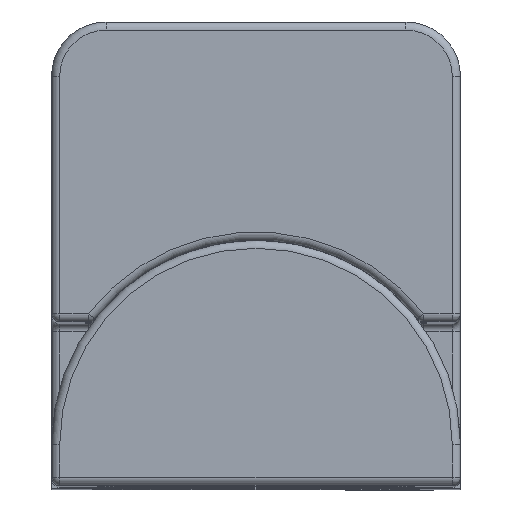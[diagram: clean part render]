
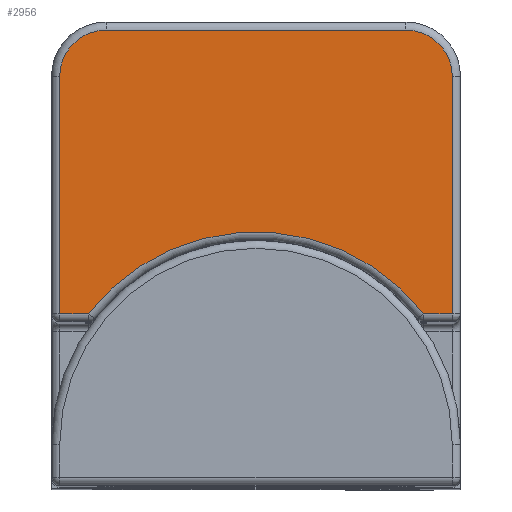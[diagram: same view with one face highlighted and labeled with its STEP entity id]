
A CAD part, top view. The second image highlights one B-rep face of the part: STEP entity #2956.
In plain terms, the highlighted planar face has unit normal (0, 0, 1).
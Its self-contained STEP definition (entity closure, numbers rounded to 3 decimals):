
#290 = AXIS2_PLACEMENT_3D ( 'NONE', #3735, #10707, #4732 ) ;
#423 = VERTEX_POINT ( 'NONE', #1577 ) ;
#443 = EDGE_CURVE ( 'NONE', #9053, #2900, #4996, .T. ) ;
#505 = CARTESIAN_POINT ( 'NONE',  ( 13., 13., 62.5 ) ) ;
#543 = DIRECTION ( 'NONE',  ( 0., 0., 1. ) ) ;
#936 = EDGE_CURVE ( 'NONE', #423, #9053, #8601, .T. ) ;
#1280 = DIRECTION ( 'NONE',  ( 0., -1., 0. ) ) ;
#1345 = CARTESIAN_POINT ( 'NONE',  ( 0.3, 4.3, 62.5 ) ) ;
#1519 = DIRECTION ( 'NONE',  ( -1., 0., 0. ) ) ;
#1577 = CARTESIAN_POINT ( 'NONE',  ( 0.3, 13., 62.5 ) ) ;
#1605 = VERTEX_POINT ( 'NONE', #11792 ) ;
#1820 = CARTESIAN_POINT ( 'NONE',  ( 14.7, 13., 62.5 ) ) ;
#1881 = CIRCLE ( 'NONE', #290, 7.8 ) ;
#2259 = ORIENTED_EDGE ( 'NONE', *, *, #7974, .T. ) ;
#2288 = CARTESIAN_POINT ( 'NONE',  ( 0.3, 0., 62.5 ) ) ;
#2628 = ORIENTED_EDGE ( 'NONE', *, *, #5451, .T. ) ;
#2702 = CARTESIAN_POINT ( 'NONE',  ( 0., 0., 62.5 ) ) ;
#2757 = AXIS2_PLACEMENT_3D ( 'NONE', #505, #7458, #1519 ) ;
#2760 = EDGE_CURVE ( 'NONE', #12017, #423, #7368, .T. ) ;
#2859 = ORIENTED_EDGE ( 'NONE', *, *, #3631, .T. ) ;
#2900 = VERTEX_POINT ( 'NONE', #12622 ) ;
#2956 = ADVANCED_FACE ( 'NONE', ( #11130 ), #4697, .F. ) ;
#3631 = EDGE_CURVE ( 'NONE', #6102, #1605, #5030, .T. ) ;
#3735 = CARTESIAN_POINT ( 'NONE',  ( 7.5, -0.5, 62.5 ) ) ;
#3844 = CARTESIAN_POINT ( 'NONE',  ( 0., 14.7, 62.5 ) ) ;
#4202 = VECTOR ( 'NONE', #5047, 1000. ) ;
#4577 = EDGE_CURVE ( 'NONE', #1605, #12017, #12843, .T. ) ;
#4697 = PLANE ( 'NONE',  #6830 ) ;
#4727 = VERTEX_POINT ( 'NONE', #7091 ) ;
#4732 = DIRECTION ( 'NONE',  ( -1., 0., 0. ) ) ;
#4996 = LINE ( 'NONE', #7566, #9983 ) ;
#5030 = CIRCLE ( 'NONE', #2757, 1.7 ) ;
#5047 = DIRECTION ( 'NONE',  ( 1., 0., 0. ) ) ;
#5451 = EDGE_CURVE ( 'NONE', #4727, #6102, #10607, .T. ) ;
#5691 = DIRECTION ( 'NONE',  ( -1., 0., 0. ) ) ;
#5852 = EDGE_LOOP ( 'NONE', ( #12328, #11927, #10156, #2259, #2628, #2859, #11764, #12271 ) ) ;
#5914 = VECTOR ( 'NONE', #1280, 1000. ) ;
#6102 = VERTEX_POINT ( 'NONE', #1820 ) ;
#6412 = CARTESIAN_POINT ( 'NONE',  ( 13.648, 4.3, 62.5 ) ) ;
#6491 = CARTESIAN_POINT ( 'NONE',  ( 2., 13., 62.5 ) ) ;
#6830 = AXIS2_PLACEMENT_3D ( 'NONE', #2702, #11698, #5691 ) ;
#7091 = CARTESIAN_POINT ( 'NONE',  ( 14.7, 4.3, 62.5 ) ) ;
#7154 = LINE ( 'NONE', #11079, #4202 ) ;
#7368 = CIRCLE ( 'NONE', #12468, 1.7 ) ;
#7458 = DIRECTION ( 'NONE',  ( 0., 0., 1. ) ) ;
#7488 = DIRECTION ( 'NONE',  ( -1., 0., 0. ) ) ;
#7566 = CARTESIAN_POINT ( 'NONE',  ( 1.352, 4.3, 62.5 ) ) ;
#7974 = EDGE_CURVE ( 'NONE', #9160, #4727, #7154, .T. ) ;
#8601 = LINE ( 'NONE', #2288, #5914 ) ;
#9053 = VERTEX_POINT ( 'NONE', #1345 ) ;
#9160 = VERTEX_POINT ( 'NONE', #6412 ) ;
#9531 = DIRECTION ( 'NONE',  ( 0., 1., 0. ) ) ;
#9831 = VECTOR ( 'NONE', #11844, 1000. ) ;
#9983 = VECTOR ( 'NONE', #11556, 1000. ) ;
#10156 = ORIENTED_EDGE ( 'NONE', *, *, #12900, .T. ) ;
#10607 = LINE ( 'NONE', #12567, #10927 ) ;
#10707 = DIRECTION ( 'NONE',  ( 0., 0., -1. ) ) ;
#10927 = VECTOR ( 'NONE', #9531, 1000. ) ;
#11079 = CARTESIAN_POINT ( 'NONE',  ( 15., 4.3, 62.5 ) ) ;
#11130 = FACE_OUTER_BOUND ( 'NONE', #5852, .T. ) ;
#11556 = DIRECTION ( 'NONE',  ( 1., 0., 0. ) ) ;
#11698 = DIRECTION ( 'NONE',  ( 0., 0., -1. ) ) ;
#11764 = ORIENTED_EDGE ( 'NONE', *, *, #4577, .T. ) ;
#11792 = CARTESIAN_POINT ( 'NONE',  ( 13., 14.7, 62.5 ) ) ;
#11844 = DIRECTION ( 'NONE',  ( -1., 0., 0. ) ) ;
#11927 = ORIENTED_EDGE ( 'NONE', *, *, #443, .T. ) ;
#12017 = VERTEX_POINT ( 'NONE', #12157 ) ;
#12157 = CARTESIAN_POINT ( 'NONE',  ( 2., 14.7, 62.5 ) ) ;
#12271 = ORIENTED_EDGE ( 'NONE', *, *, #2760, .T. ) ;
#12328 = ORIENTED_EDGE ( 'NONE', *, *, #936, .T. ) ;
#12468 = AXIS2_PLACEMENT_3D ( 'NONE', #6491, #543, #7488 ) ;
#12567 = CARTESIAN_POINT ( 'NONE',  ( 14.7, 0., 62.5 ) ) ;
#12622 = CARTESIAN_POINT ( 'NONE',  ( 1.352, 4.3, 62.5 ) ) ;
#12843 = LINE ( 'NONE', #3844, #9831 ) ;
#12900 = EDGE_CURVE ( 'NONE', #2900, #9160, #1881, .T. ) ;
